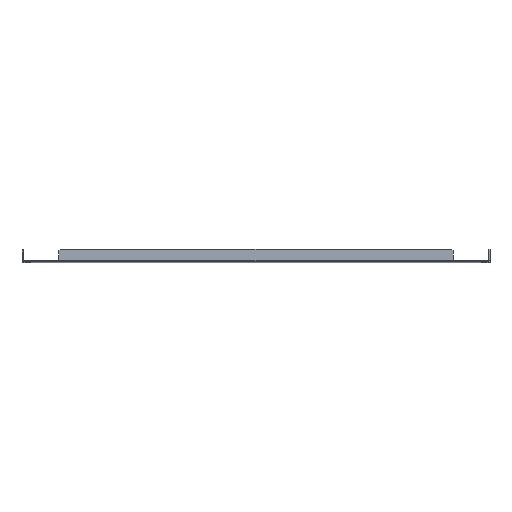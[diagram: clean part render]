
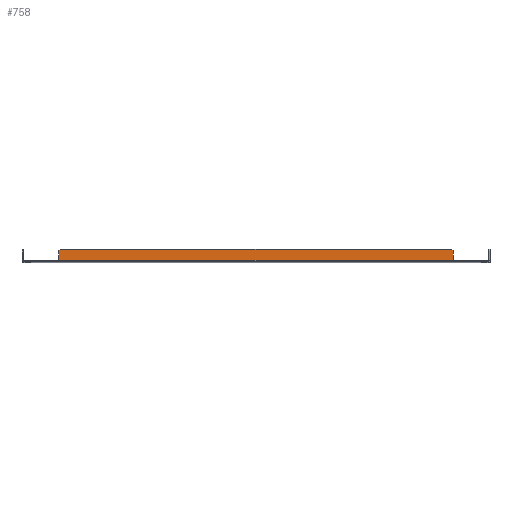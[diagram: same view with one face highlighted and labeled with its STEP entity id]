
A CAD part, top view. The second image highlights one B-rep face of the part: STEP entity #758.
In plain terms, the highlighted planar face has unit normal (0, 0, 1).
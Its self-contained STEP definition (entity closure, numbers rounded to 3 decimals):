
#120 = VERTEX_POINT ( 'NONE', #1471 ) ;
#364 = VECTOR ( 'NONE', #2726, 1000. ) ;
#375 = LINE ( 'NONE', #2731, #364 ) ;
#396 = DIRECTION ( 'NONE',  ( 1., 0., 0. ) ) ;
#401 = DIRECTION ( 'NONE',  ( 0., 0., 1. ) ) ;
#403 = CARTESIAN_POINT ( 'NONE',  ( 449.5, 0., 395. ) ) ;
#449 = PLANE ( 'NONE',  #3631 ) ;
#561 = ORIENTED_EDGE ( 'NONE', *, *, #2277, .F. ) ;
#758 = ADVANCED_FACE ( 'N', ( #3073 ), #449, .T. ) ;
#1019 = ORIENTED_EDGE ( 'NONE', *, *, #1263, .T. ) ;
#1103 = VECTOR ( 'NONE', #3361, 1000. ) ;
#1127 = LINE ( 'NONE', #3369, #1103 ) ;
#1262 = DIRECTION ( 'NONE',  ( 0.707, -0.707, 0. ) ) ;
#1263 = EDGE_CURVE ( 'NONE', #120, #4036, #1849, .T. ) ;
#1284 = EDGE_CURVE ( 'NONE', #1993, #3625, #1691, .T. ) ;
#1329 = CARTESIAN_POINT ( 'NONE',  ( 377., 22.5, 395. ) ) ;
#1414 = EDGE_CURVE ( 'NONE', #120, #2043, #1127, .T. ) ;
#1471 = CARTESIAN_POINT ( 'NONE',  ( 378.5, 3.5, 395. ) ) ;
#1520 = EDGE_LOOP ( 'NONE', ( #1019, #561, #4111, #3986, #4244, #1575 ) ) ;
#1543 = CARTESIAN_POINT ( 'NONE',  ( -378.5, 3.5, 395. ) ) ;
#1575 = ORIENTED_EDGE ( 'NONE', *, *, #1414, .F. ) ;
#1618 = EDGE_CURVE ( 'NONE', #3625, #3300, #375, .T. ) ;
#1666 = CARTESIAN_POINT ( 'NONE',  ( -378.5, 21., 395. ) ) ;
#1668 = VECTOR ( 'NONE', #3715, 1000. ) ;
#1691 = LINE ( 'NONE', #3770, #1668 ) ;
#1788 = VECTOR ( 'NONE', #3832, 1000. ) ;
#1849 = LINE ( 'NONE', #3866, #1788 ) ;
#1993 = VERTEX_POINT ( 'NONE', #1666 ) ;
#2043 = VERTEX_POINT ( 'NONE', #1543 ) ;
#2237 = LINE ( 'NONE', #3181, #3037 ) ;
#2277 = EDGE_CURVE ( 'NONE', #3300, #4036, #2528, .T. ) ;
#2422 = CARTESIAN_POINT ( 'NONE',  ( 378.5, 21., 395. ) ) ;
#2518 = VECTOR ( 'NONE', #1262, 1000. ) ;
#2528 = LINE ( 'NONE', #1329, #2518 ) ;
#2670 = CARTESIAN_POINT ( 'NONE',  ( 375.5, 24., 395. ) ) ;
#2726 = DIRECTION ( 'NONE',  ( 1., 0., 0. ) ) ;
#2731 = CARTESIAN_POINT ( 'NONE',  ( 0., 24., 395. ) ) ;
#3037 = VECTOR ( 'NONE', #3118, 1000. ) ;
#3073 = FACE_OUTER_BOUND ( 'NONE', #1520, .T. ) ;
#3118 = DIRECTION ( 'NONE',  ( 0., -1., 0. ) ) ;
#3181 = CARTESIAN_POINT ( 'NONE',  ( -378.5, 1.25, 395. ) ) ;
#3300 = VERTEX_POINT ( 'NONE', #2670 ) ;
#3361 = DIRECTION ( 'NONE',  ( -1., 0., 0. ) ) ;
#3369 = CARTESIAN_POINT ( 'NONE',  ( -378.5, 3.5, 395. ) ) ;
#3625 = VERTEX_POINT ( 'NONE', #3782 ) ;
#3631 = AXIS2_PLACEMENT_3D ( 'NONE', #403, #401, #396 ) ;
#3715 = DIRECTION ( 'NONE',  ( 0.707, 0.707, 0. ) ) ;
#3770 = CARTESIAN_POINT ( 'NONE',  ( -377., 22.5, 395. ) ) ;
#3782 = CARTESIAN_POINT ( 'NONE',  ( -375.5, 24., 395. ) ) ;
#3832 = DIRECTION ( 'NONE',  ( 0., 1., 0. ) ) ;
#3866 = CARTESIAN_POINT ( 'NONE',  ( 378.5, 2.365, 395. ) ) ;
#3986 = ORIENTED_EDGE ( 'NONE', *, *, #1284, .F. ) ;
#4036 = VERTEX_POINT ( 'NONE', #2422 ) ;
#4038 = EDGE_CURVE ( 'NONE', #1993, #2043, #2237, .T. ) ;
#4111 = ORIENTED_EDGE ( 'NONE', *, *, #1618, .F. ) ;
#4244 = ORIENTED_EDGE ( 'NONE', *, *, #4038, .T. ) ;
